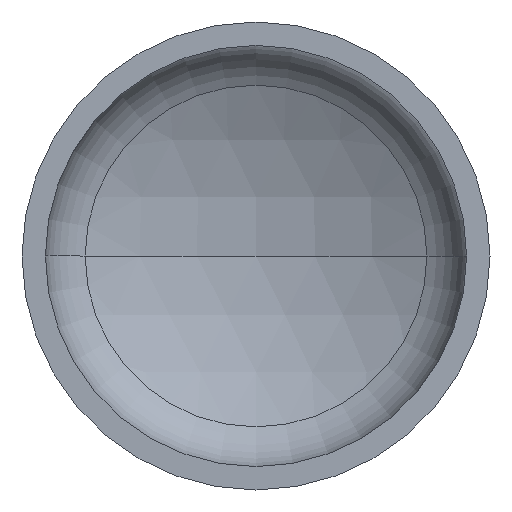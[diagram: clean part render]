
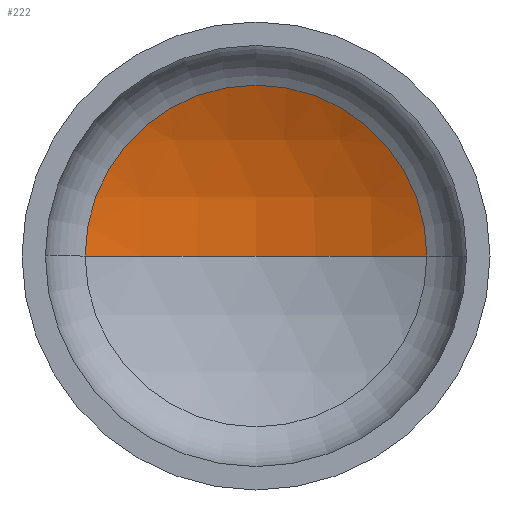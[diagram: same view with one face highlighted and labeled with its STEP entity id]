
A CAD part, front view. The second image highlights one B-rep face of the part: STEP entity #222.
In plain terms, the highlighted spherical face has radius 640 mm.
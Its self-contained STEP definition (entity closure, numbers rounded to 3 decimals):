
#2 = AXIS2_PLACEMENT_3D ( 'NONE', #198, #315, #232 ) ;
#6 = VERTEX_POINT ( 'NONE', #264 ) ;
#10 = EDGE_LOOP ( 'NONE', ( #101, #21, #98 ) ) ;
#21 = ORIENTED_EDGE ( 'NONE', *, *, #93, .T. ) ;
#29 = AXIS2_PLACEMENT_3D ( 'NONE', #260, #220, #275 ) ;
#32 = AXIS2_PLACEMENT_3D ( 'NONE', #344, #201, #368 ) ;
#34 = AXIS2_PLACEMENT_3D ( 'NONE', #216, #214, #215 ) ;
#80 = VERTEX_POINT ( 'NONE', #199 ) ;
#83 = EDGE_CURVE ( 'NONE', #80, #113, #383, .T. ) ;
#93 = EDGE_CURVE ( 'NONE', #6, #80, #206, .T. ) ;
#98 = ORIENTED_EDGE ( 'NONE', *, *, #83, .T. ) ;
#101 = ORIENTED_EDGE ( 'NONE', *, *, #356, .F. ) ;
#113 = VERTEX_POINT ( 'NONE', #193 ) ;
#193 = CARTESIAN_POINT ( 'NONE',  ( -292.039, 231.228, 0. ) ) ;
#196 = FACE_OUTER_BOUND ( 'NONE', #10, .T. ) ;
#198 = CARTESIAN_POINT ( 'NONE',  ( 0., -338.258, 0. ) ) ;
#199 = CARTESIAN_POINT ( 'NONE',  ( 292.039, 231.228, 0. ) ) ;
#201 = DIRECTION ( 'NONE',  ( 0., 0., -1. ) ) ;
#206 = CIRCLE ( 'NONE', #32, 640. ) ;
#214 = DIRECTION ( 'NONE',  ( 0., -1., 0. ) ) ;
#215 = DIRECTION ( 'NONE',  ( 1., 0., 0. ) ) ;
#216 = CARTESIAN_POINT ( 'NONE',  ( 0., 231.228, 0. ) ) ;
#220 = DIRECTION ( 'NONE',  ( 0., 0., -1. ) ) ;
#222 = ADVANCED_FACE ( 'NONE', ( #196 ), #256, .F. ) ;
#232 = DIRECTION ( 'NONE',  ( 1., 0., 0. ) ) ;
#256 = SPHERICAL_SURFACE ( 'NONE', #29, 640. ) ;
#260 = CARTESIAN_POINT ( 'NONE',  ( 0., -338.258, 0. ) ) ;
#264 = CARTESIAN_POINT ( 'NONE',  ( 0., 301.742, 0. ) ) ;
#275 = DIRECTION ( 'NONE',  ( -1., 0., 0. ) ) ;
#289 = CIRCLE ( 'NONE', #2, 640. ) ;
#315 = DIRECTION ( 'NONE',  ( 0., 0., 1. ) ) ;
#344 = CARTESIAN_POINT ( 'NONE',  ( 0., -338.258, 0. ) ) ;
#356 = EDGE_CURVE ( 'NONE', #6, #113, #289, .T. ) ;
#368 = DIRECTION ( 'NONE',  ( -1., 0., 0. ) ) ;
#383 = CIRCLE ( 'NONE', #34, 292.039 ) ;
